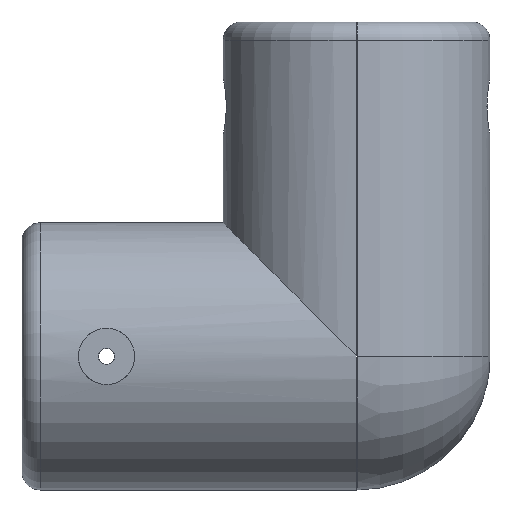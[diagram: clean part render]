
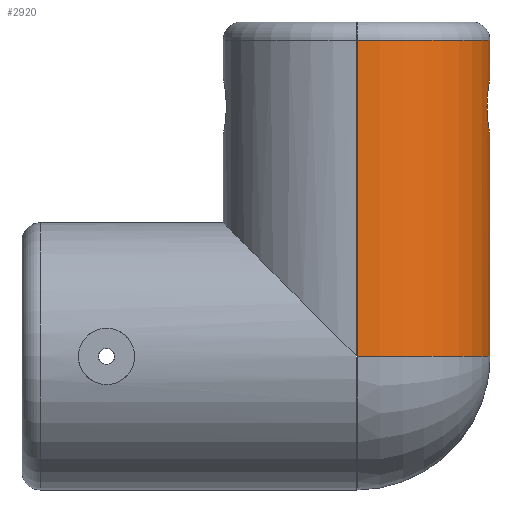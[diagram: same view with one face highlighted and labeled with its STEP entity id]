
A CAD part, left-side view. The second image highlights one B-rep face of the part: STEP entity #2920.
In plain terms, the highlighted cylindrical face has radius 33.15 mm (diameter 66.3 mm), a partial arc.
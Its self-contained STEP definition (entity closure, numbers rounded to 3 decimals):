
#249 = LINE ( 'NONE', #2597, #2632 ) ;
#285 = CIRCLE ( 'NONE', #6320, 33.15 ) ;
#322 = CARTESIAN_POINT ( 'NONE',  ( -0.05, -33.15, 55.1 ) ) ;
#458 = CARTESIAN_POINT ( 'NONE',  ( -0.05, -33.15, 0. ) ) ;
#548 = CARTESIAN_POINT ( 'NONE',  ( -6.645, -32.488, 64.348 ) ) ;
#587 = CARTESIAN_POINT ( 'NONE',  ( -2.299, -33.076, 68.727 ) ) ;
#588 = CARTESIAN_POINT ( 'NONE',  ( -4.65, -32.831, 56.848 ) ) ;
#625 = CARTESIAN_POINT ( 'NONE',  ( -7., -32.413, 61.644 ) ) ;
#626 = EDGE_CURVE ( 'NONE', #3974, #5661, #285, .T. ) ;
#633 = CARTESIAN_POINT ( 'NONE',  ( -0.05, 0., 0. ) ) ;
#872 = EDGE_CURVE ( 'NONE', #3974, #941, #2954, .T. ) ;
#911 = AXIS2_PLACEMENT_3D ( 'NONE', #1106, #3527, #5955 ) ;
#941 = VERTEX_POINT ( 'NONE', #5932 ) ;
#995 = ORIENTED_EDGE ( 'NONE', *, *, #626, .T. ) ;
#1068 = ORIENTED_EDGE ( 'NONE', *, *, #2593, .F. ) ;
#1088 = CARTESIAN_POINT ( 'NONE',  ( -7., -32.413, 62.1 ) ) ;
#1106 = CARTESIAN_POINT ( 'NONE',  ( -0.05, 0., 83.1 ) ) ;
#1147 = B_SPLINE_CURVE_WITH_KNOTS ( 'NONE', 3,
 ( #1777, #1735, #6438, #4039, #3427, #5867, #2848, #7612, #4545, #2275, #588, #4622, #5901, #6964, #3967, #4697, #1701, #2308, #6399, #2924, #6479, #625, #6890 ),
 .UNSPECIFIED., .F., .F.,
 ( 4, 2, 2, 2, 2, 2, 2, 2, 1, 2, 2, 4 ),
 ( 0., 0.001, 0.002, 0.003, 0.004, 0.005, 0.007, 0.008, 0.008, 0.009, 0.01, 0.011 ),
 .UNSPECIFIED. ) ;
#1163 = CARTESIAN_POINT ( 'NONE',  ( -3.733, -32.945, 68.026 ) ) ;
#1440 = CARTESIAN_POINT ( 'NONE',  ( -0.05, -33.15, 78.6 ) ) ;
#1606 = EDGE_CURVE ( 'NONE', #3012, #3321, #249, .T. ) ;
#1701 = CARTESIAN_POINT ( 'NONE',  ( -6.481, -32.521, 59.426 ) ) ;
#1734 = CARTESIAN_POINT ( 'NONE',  ( -7., -32.413, 62.555 ) ) ;
#1735 = CARTESIAN_POINT ( 'NONE',  ( -0.512, -33.15, 55.103 ) ) ;
#1777 = CARTESIAN_POINT ( 'NONE',  ( -0.05, -33.15, 55.1 ) ) ;
#1816 = CARTESIAN_POINT ( 'NONE',  ( -0.511, -33.15, 69.097 ) ) ;
#1859 = DIRECTION ( 'NONE',  ( -1., 0., 0. ) ) ;
#1881 = CARTESIAN_POINT ( 'NONE',  ( -0.05, -33.15, 0. ) ) ;
#1887 = ORIENTED_EDGE ( 'NONE', *, *, #3151, .F. ) ;
#1903 = LINE ( 'NONE', #6108, #6545 ) ;
#1960 = ORIENTED_EDGE ( 'NONE', *, *, #1606, .F. ) ;
#1962 = EDGE_LOOP ( 'NONE', ( #3433, #4915, #6222, #2716, #995, #1068, #1887, #1960 ) ) ;
#2275 = CARTESIAN_POINT ( 'NONE',  ( -4.294, -32.879, 56.553 ) ) ;
#2308 = CARTESIAN_POINT ( 'NONE',  ( -6.634, -32.49, 59.854 ) ) ;
#2316 = DIRECTION ( 'NONE',  ( 0., 0., -1. ) ) ;
#2385 = CARTESIAN_POINT ( 'NONE',  ( -3.138, -33.007, 68.362 ) ) ;
#2593 = EDGE_CURVE ( 'NONE', #4931, #5661, #1903, .T. ) ;
#2597 = CARTESIAN_POINT ( 'NONE',  ( -0.05, -33.15, 0. ) ) ;
#2632 = VECTOR ( 'NONE', #7091, 1000. ) ;
#2716 = ORIENTED_EDGE ( 'NONE', *, *, #872, .F. ) ;
#2742 = EDGE_CURVE ( 'NONE', #4415, #2816, #1147, .T. ) ;
#2816 = VERTEX_POINT ( 'NONE', #4332 ) ;
#2848 = CARTESIAN_POINT ( 'NONE',  ( -2.51, -33.059, 55.561 ) ) ;
#2920 = ADVANCED_FACE ( 'NONE', ( #4719 ), #5844, .T. ) ;
#2924 = CARTESIAN_POINT ( 'NONE',  ( -6.822, -32.451, 60.515 ) ) ;
#2954 = LINE ( 'NONE', #7609, #4710 ) ;
#2956 = CARTESIAN_POINT ( 'NONE',  ( -1.866, -33.103, 68.862 ) ) ;
#3012 = VERTEX_POINT ( 'NONE', #5267 ) ;
#3039 = CARTESIAN_POINT ( 'NONE',  ( -0.05, 0., 78.6 ) ) ;
#3093 = B_SPLINE_CURVE_WITH_KNOTS ( 'NONE', 3,
 ( #1088, #1734, #7075, #5822, #548, #7611, #4657, #3426, #6398, #5900, #7576, #4073, #6437, #1163, #3509, #2385, #5866, #587, #2956, #4742, #1816, #4153 ),
 .UNSPECIFIED., .F., .F.,
 ( 4, 2, 2, 2, 2, 2, 2, 2, 2, 2, 4 ),
 ( 0.011, 0.012, 0.014, 0.014, 0.015, 0.016, 0.018, 0.018, 0.019, 0.02, 0.022 ),
 .UNSPECIFIED. ) ;
#3151 = EDGE_CURVE ( 'NONE', #3321, #4931, #7038, .T. ) ;
#3160 = DIRECTION ( 'NONE',  ( 0., 0., 1. ) ) ;
#3321 = VERTEX_POINT ( 'NONE', #1881 ) ;
#3426 = CARTESIAN_POINT ( 'NONE',  ( -6.071, -32.599, 65.593 ) ) ;
#3427 = CARTESIAN_POINT ( 'NONE',  ( -1.855, -33.102, 55.346 ) ) ;
#3433 = ORIENTED_EDGE ( 'NONE', *, *, #6096, .F. ) ;
#3509 = CARTESIAN_POINT ( 'NONE',  ( -3.539, -32.966, 68.144 ) ) ;
#3527 = DIRECTION ( 'NONE',  ( 0., 0., -1. ) ) ;
#3967 = CARTESIAN_POINT ( 'NONE',  ( -6.074, -32.598, 58.613 ) ) ;
#3974 = VERTEX_POINT ( 'NONE', #1440 ) ;
#3977 = DIRECTION ( 'NONE',  ( 0., 0., -1. ) ) ;
#3995 = CARTESIAN_POINT ( 'NONE',  ( -33.2, -0.1, 78.6 ) ) ;
#4039 = CARTESIAN_POINT ( 'NONE',  ( -1.634, -33.113, 55.29 ) ) ;
#4073 = CARTESIAN_POINT ( 'NONE',  ( -4.645, -32.832, 67.356 ) ) ;
#4153 = CARTESIAN_POINT ( 'NONE',  ( -0.05, -33.15, 69.1 ) ) ;
#4241 = EDGE_CURVE ( 'NONE', #2816, #941, #3093, .T. ) ;
#4332 = CARTESIAN_POINT ( 'NONE',  ( -7., -32.413, 62.1 ) ) ;
#4415 = VERTEX_POINT ( 'NONE', #322 ) ;
#4545 = CARTESIAN_POINT ( 'NONE',  ( -3.54, -32.968, 56.044 ) ) ;
#4622 = CARTESIAN_POINT ( 'NONE',  ( -5.289, -32.735, 57.492 ) ) ;
#4657 = CARTESIAN_POINT ( 'NONE',  ( -6.285, -32.558, 65.19 ) ) ;
#4697 = CARTESIAN_POINT ( 'NONE',  ( -6.288, -32.558, 59.015 ) ) ;
#4710 = VECTOR ( 'NONE', #5284, 1000. ) ;
#4719 = FACE_OUTER_BOUND ( 'NONE', #1962, .T. ) ;
#4742 = CARTESIAN_POINT ( 'NONE',  ( -0.973, -33.14, 69.047 ) ) ;
#4856 = VECTOR ( 'NONE', #6952, 1000. ) ;
#4915 = ORIENTED_EDGE ( 'NONE', *, *, #2742, .T. ) ;
#4931 = VERTEX_POINT ( 'NONE', #5014 ) ;
#5014 = CARTESIAN_POINT ( 'NONE',  ( -33.2, -0.1, 0. ) ) ;
#5092 = AXIS2_PLACEMENT_3D ( 'NONE', #633, #3977, #6339 ) ;
#5267 = CARTESIAN_POINT ( 'NONE',  ( -0.05, -33.15, 34.1 ) ) ;
#5284 = DIRECTION ( 'NONE',  ( 0., 0., -1. ) ) ;
#5661 = VERTEX_POINT ( 'NONE', #3995 ) ;
#5822 = CARTESIAN_POINT ( 'NONE',  ( -6.777, -32.461, 63.913 ) ) ;
#5844 = CYLINDRICAL_SURFACE ( 'NONE', #911, 33.15 ) ;
#5866 = CARTESIAN_POINT ( 'NONE',  ( -2.93, -33.025, 68.462 ) ) ;
#5867 = CARTESIAN_POINT ( 'NONE',  ( -2.293, -33.075, 55.482 ) ) ;
#5900 = CARTESIAN_POINT ( 'NONE',  ( -5.578, -32.687, 66.353 ) ) ;
#5901 = CARTESIAN_POINT ( 'NONE',  ( -5.576, -32.687, 57.843 ) ) ;
#5932 = CARTESIAN_POINT ( 'NONE',  ( -0.05, -33.15, 69.1 ) ) ;
#5955 = DIRECTION ( 'NONE',  ( -1., 0., 0. ) ) ;
#6096 = EDGE_CURVE ( 'NONE', #4415, #3012, #7489, .T. ) ;
#6108 = CARTESIAN_POINT ( 'NONE',  ( -33.2, -0.1, 83.1 ) ) ;
#6222 = ORIENTED_EDGE ( 'NONE', *, *, #4241, .T. ) ;
#6320 = AXIS2_PLACEMENT_3D ( 'NONE', #3039, #2316, #1859 ) ;
#6339 = DIRECTION ( 'NONE',  ( -1., 0., 0. ) ) ;
#6398 = CARTESIAN_POINT ( 'NONE',  ( -5.954, -32.62, 65.787 ) ) ;
#6399 = CARTESIAN_POINT ( 'NONE',  ( -6.766, -32.463, 60.291 ) ) ;
#6437 = CARTESIAN_POINT ( 'NONE',  ( -4.296, -32.879, 67.645 ) ) ;
#6438 = CARTESIAN_POINT ( 'NONE',  ( -0.965, -33.14, 55.152 ) ) ;
#6479 = CARTESIAN_POINT ( 'NONE',  ( -6.956, -32.423, 61.191 ) ) ;
#6545 = VECTOR ( 'NONE', #3160, 1000. ) ;
#6890 = CARTESIAN_POINT ( 'NONE',  ( -7., -32.413, 62.1 ) ) ;
#6952 = DIRECTION ( 'NONE',  ( 0., 0., -1. ) ) ;
#6964 = CARTESIAN_POINT ( 'NONE',  ( -5.956, -32.62, 58.415 ) ) ;
#7038 = CIRCLE ( 'NONE', #5092, 33.15 ) ;
#7075 = CARTESIAN_POINT ( 'NONE',  ( -6.955, -32.423, 63.018 ) ) ;
#7091 = DIRECTION ( 'NONE',  ( 0., 0., -1. ) ) ;
#7489 = LINE ( 'NONE', #458, #4856 ) ;
#7576 = CARTESIAN_POINT ( 'NONE',  ( -5.291, -32.735, 66.706 ) ) ;
#7609 = CARTESIAN_POINT ( 'NONE',  ( -0.05, -33.15, 0. ) ) ;
#7611 = CARTESIAN_POINT ( 'NONE',  ( -6.384, -32.539, 64.981 ) ) ;
#7612 = CARTESIAN_POINT ( 'NONE',  ( -3.141, -33.008, 55.828 ) ) ;
